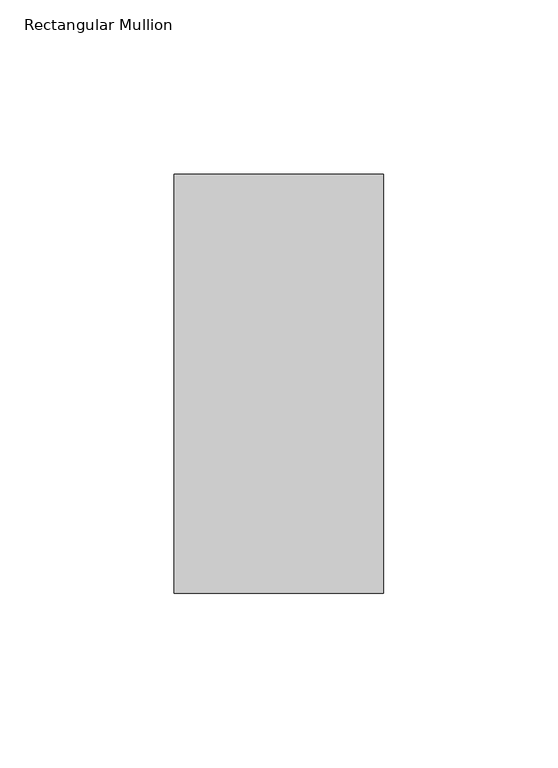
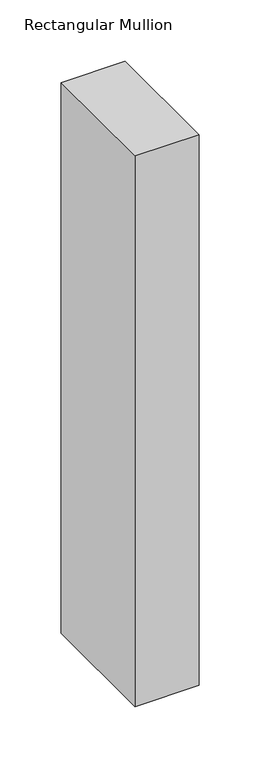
"""IFC4 building model written with IfcOpenShell, lengths in millimetres: member geometry, Rectangular Mullion : Terça."""

import ifcopenshell
import ifcopenshell.guid

model = None  # the IFC model being written
_history = None  # IfcOwnerHistory: only IFC2X3 demands one
_inside = {}  # id of a spatial element -> (the spatial element, [elements in it])
_under = {}  # id of a project, library or spatial element -> (it, [spatial elements below it])
_declared = {}  # id of a project -> (the project, [libraries it declares])
_typed = {}  # id of a type object -> (the type object, [elements of that type])
_made_of = {}  # id of a material, layer set ... -> (it, [elements and type objects made of it])


def new_model(schema):
    """Start an empty IFC model of exactly this schema.

    Asked for "IFC4X3", IfcOpenShell would pick the latest addendum, in which some entities
    have other attributes; the version numbers below select the first issue.
    IFC2X3 requires an IfcOwnerHistory on every rooted entity: one is made here for all.
    """
    global model, _history
    if schema == "IFC4X3":
        model = ifcopenshell.file(schema_version=(4, 3, 0, 0))
    else:
        model = ifcopenshell.file(schema=schema)
    _inside.clear()
    _under.clear()
    _declared.clear()
    _typed.clear()
    _made_of.clear()
    _history = None
    if model.schema == "IFC2X3":
        org = make("IfcOrganization", Name="unknown")
        user = make(
            "IfcPersonAndOrganization",
            ThePerson=make("IfcPerson", FamilyName="unknown"),
            TheOrganization=org,
        )
        app = make(
            "IfcApplication",
            ApplicationDeveloper=org,
            Version="unknown",
            ApplicationFullName="unknown",
            ApplicationIdentifier="unknown",
        )
        _history = make(
            "IfcOwnerHistory",
            OwningUser=user,
            OwningApplication=app,
            ChangeAction="ADDED",
            CreationDate=0,
        )
    return model


def make(cls, **values):
    """One entity of the class cls with the attributes given. An attribute that is None is left unset."""
    return model.create_entity(
        cls, **{name: value for name, value in values.items() if value is not None}
    )


def rooted(cls, **values):
    """An entity with a GlobalId (a new one), such as an element, a storey or a relation."""
    return make(cls, GlobalId=ifcopenshell.guid.new(), OwnerHistory=_history, **values)


def si_unit(unit_type, name, prefix=None):
    """IfcSIUnit, for example si_unit("LENGTHUNIT", "METRE", prefix="MILLI")."""
    return make("IfcSIUnit", UnitType=unit_type, Prefix=prefix, Name=name)


def assignment(units):
    """IfcUnitAssignment: the units of a project."""
    return None if units is None else make("IfcUnitAssignment", Units=units)


def point(xyz):
    """IfcCartesianPoint."""
    return None if xyz is None else make("IfcCartesianPoint", Coordinates=xyz)


def direction(xyz):
    """IfcDirection."""
    return None if xyz is None else make("IfcDirection", DirectionRatios=xyz)


def frame(location, z_axis=None, x_axis=None):
    """IfcAxis2Placement3D, a coordinate frame: its origin and axes. An axis left out is left unset."""
    return make(
        "IfcAxis2Placement3D",
        Location=point(location),
        Axis=direction(z_axis),
        RefDirection=direction(x_axis),
    )


def origin():
    """The frame at (0, 0, 0) with its axes left unset."""
    return frame((0.0, 0.0, 0.0))


def place(relative_to, where):
    """IfcLocalPlacement: puts the frame where relative to a parent placement (None: the world)."""
    return make(
        "IfcLocalPlacement", PlacementRelTo=relative_to, RelativePlacement=where
    )


def context(
    kind, dimensions, precision=None, world=None, true_north=None, identifier=None
):
    """IfcGeometricRepresentationContext, for example the 3D "Model" context."""
    return make(
        "IfcGeometricRepresentationContext",
        ContextIdentifier=identifier,
        ContextType=kind,
        CoordinateSpaceDimension=dimensions,
        Precision=precision,
        WorldCoordinateSystem=world,
        TrueNorth=true_north,
    )


def project(units=None, contexts=None):
    """IfcProject with its units and contexts."""
    return rooted(
        "IfcProject",
        Name="project",
        RepresentationContexts=contexts,
        UnitsInContext=assignment(units),
    )


def spatial(cls, under=None, at=None, **own):
    """A site, building, storey or space (cls), placed at a placement, below another one or the project."""
    s = rooted(cls, ObjectPlacement=at, **own)
    if under is not None:
        _under.setdefault(under.id(), (under, []))[1].append(s)
    return s


def polyline(points):
    """IfcPolyline through the points."""
    return make("IfcPolyline", Points=[point(p) for p in points])


def outline(outer, holes=None, kind="AREA"):
    """IfcArbitraryClosedProfileDef: a profile drawn as a closed curve; with holes, ...WithVoids."""
    if holes is None:
        return make("IfcArbitraryClosedProfileDef", ProfileType=kind, OuterCurve=outer)
    return make(
        "IfcArbitraryProfileDefWithVoids",
        ProfileType=kind,
        OuterCurve=outer,
        InnerCurves=holes,
    )


def extrude(swept, where, along, depth):
    """IfcExtrudedAreaSolid: the profile swept, set in the frame where, extruded along a direction by depth."""
    return make(
        "IfcExtrudedAreaSolid",
        SweptArea=swept,
        Position=where,
        ExtrudedDirection=direction(along),
        Depth=depth,
    )


def shape(context_of_items, identifier, shape_type, items):
    """IfcShapeRepresentation: the items that make up one representation, for example the "Body"."""
    return make(
        "IfcShapeRepresentation",
        ContextOfItems=context_of_items,
        RepresentationIdentifier=identifier,
        RepresentationType=shape_type,
        Items=items,
    )


def source(mapping_origin, context_of_items, identifier, shape_type, items):
    """IfcRepresentationMap: a shape defined once, which mapped items show again and again."""
    return make(
        "IfcRepresentationMap",
        MappingOrigin=mapping_origin,
        MappedRepresentation=shape(context_of_items, identifier, shape_type, items),
    )


def transform(
    local_origin,
    x_axis=None,
    y_axis=None,
    z_axis=None,
    scale=None,
    scale2=None,
    scale3=None,
    uniform=True,
):
    """IfcCartesianTransformationOperator3D, or its non-uniform kind. x_axis, y_axis, z_axis: its Axis1, 2, 3."""
    if uniform:
        return make(
            "IfcCartesianTransformationOperator3D",
            Axis1=direction(x_axis),
            Axis2=direction(y_axis),
            LocalOrigin=point(local_origin),
            Scale=scale,
            Axis3=direction(z_axis),
        )
    return make(
        "IfcCartesianTransformationOperator3DnonUniform",
        Axis1=direction(x_axis),
        Axis2=direction(y_axis),
        LocalOrigin=point(local_origin),
        Scale=scale,
        Axis3=direction(z_axis),
        Scale2=scale2,
        Scale3=scale3,
    )


def mapped(mapping_source, mapping_target):
    """IfcMappedItem: shows the shape of a source again, moved by a transform."""
    return make(
        "IfcMappedItem", MappingSource=mapping_source, MappingTarget=mapping_target
    )


def made_of(thing, what):
    """Note that an element or type object is made of a material, layer set ...; save() writes the relation."""
    if what is not None:
        _made_of.setdefault(what.id(), (what, []))[1].append(thing)
    return thing


def element(
    cls,
    number,
    at=None,
    inside=None,
    cuts=None,
    type_object=None,
    material=None,
    context=None,
    identifier="Body",
    shape_type=None,
    held_by="IfcProductDefinitionShape",
    body=None,
    shapes=None,
    **own,
):
    """One element of the class cls, such as IfcWall. Its Tag is "e" and its number.

    at: its placement. inside: the storey or other place that contains it. cuts: it is an
    opening in that element (IfcRelVoidsElement). A single representation is given by context,
    identifier, shape_type and body (its items); several are given by shapes. held_by: the class
    of the entity that holds the representations. save() writes the other relations.
    """
    e = rooted(cls, Tag="e%d" % number, ObjectPlacement=at, **own)
    if body is not None:
        shapes = [shape(context, identifier, shape_type, body)]
    if shapes is not None:
        e.Representation = make(held_by, Representations=shapes)
    if inside is not None:
        _inside.setdefault(inside.id(), (inside, []))[1].append(e)
    if cuts is not None:
        rooted(
            "IfcRelVoidsElement", RelatingBuildingElement=cuts, RelatedOpeningElement=e
        )
    if type_object is not None:
        _typed.setdefault(type_object.id(), (type_object, []))[1].append(e)
    return made_of(e, material)


def aggregate(whole, parts):
    """IfcRelAggregates: a whole, such as a stair, and the parts it consists of."""
    return rooted("IfcRelAggregates", RelatingObject=whole, RelatedObjects=parts)


def save(model, path):
    """Write the relations noted so far, then the file.

    IfcRelAggregates (storeys below a building ...), IfcRelContainedInSpatialStructure (elements
    in a storey), IfcRelDefinesByType, IfcRelAssociatesMaterial and IfcRelDeclares: one each for
    every whole, place, type object, material and project.
    """
    for whole, parts in _under.values():
        aggregate(whole, parts)
    for where, things in _inside.values():
        rooted(
            "IfcRelContainedInSpatialStructure",
            RelatedElements=things,
            RelatingStructure=where,
        )
    for kind, things in _typed.values():
        rooted("IfcRelDefinesByType", RelatedObjects=things, RelatingType=kind)
    for what, things in _made_of.values():
        rooted("IfcRelAssociatesMaterial", RelatedObjects=things, RelatingMaterial=what)
    for by, libraries in _declared.values():
        rooted("IfcRelDeclares", RelatingContext=by, RelatedDefinitions=libraries)
    model.write(path)


def rectangular_mullion_2d2423ea(model_context):
    return source(origin(), model_context, "Body", "SweptSolid", [
        extrude(outline(polyline([(30.0, -120.0), (-30.0, -120.0), (-30.0, 0.0), (30.0, 0.0), (30.0, -120.0)])), frame((0.0, 0.0, -547.0547567), z_axis=(0.0, 0.0, 1.0), x_axis=(1.0, 0.0, 0.0)), (0.0, 0.0, 1.0), 547.0547567),
    ])


if __name__ == "__main__":
    model = new_model("IFC4")
    model_context = context("Model", 3, world=origin())
    ifc_project = project(units=[si_unit("LENGTHUNIT", "METRE", prefix="MILLI")], contexts=[model_context])
    site = spatial("IfcSite", under=ifc_project)
    building = spatial("IfcBuilding", under=site)
    placement = place(None, origin())
    rectangular_mullion_shape = rectangular_mullion_2d2423ea(model_context)
    element("IfcMember", 1, ObjectType="Rectangular Mullion : Terça", at=placement, inside=building, context=model_context, shape_type="MappedRepresentation", body=[
        mapped(rectangular_mullion_shape, transform((0.0, 0.0, 0.0), x_axis=(1.0, 0.0, 0.0), y_axis=(0.0, 1.0, 0.0), z_axis=(0.0, 0.0, 1.0))),
    ])
    save(model, "model.ifc")
